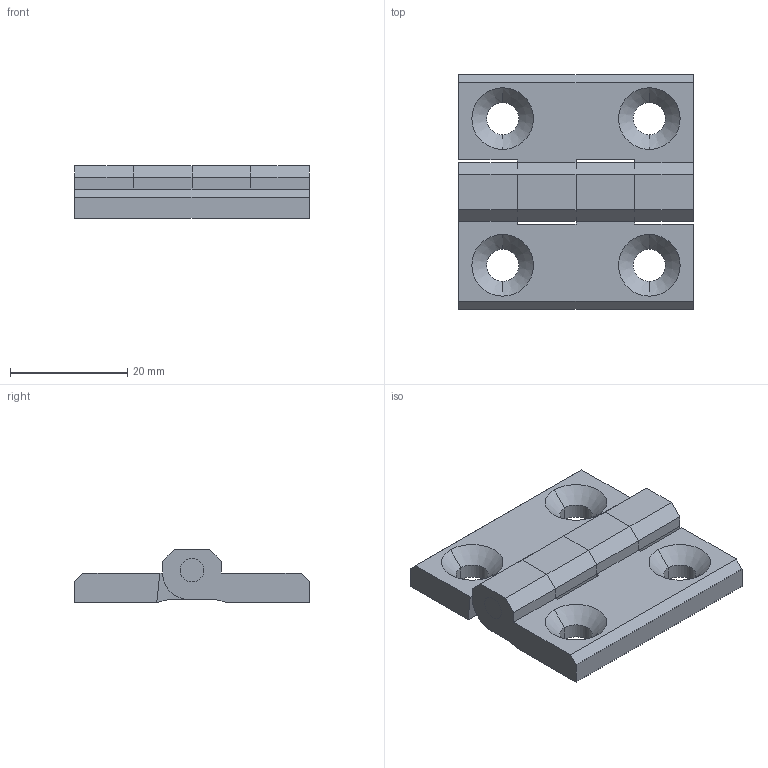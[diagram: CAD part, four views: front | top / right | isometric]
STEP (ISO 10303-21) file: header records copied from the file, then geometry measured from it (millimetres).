
FILE_DESCRIPTION (( 'STEP AP203' ), '1' );
FILE_NAME ('md-efth4040hh.STEP', '2021-10-26T02:42:58', ( '' ), ( '' ), 'SwSTEP 2.0', 'SolidWorks 2020', '' );
FILE_SCHEMA (( 'CONFIG_CONTROL_DESIGN' ));
Length unit declared in the file: millimetre
Products named in the file (4): md-efth4040hh_02; md-efth4040hh_03; md-efth4040hh_01; md-efth4040hh
Assembly tree (3 placements, depth 2):
  md-efth4040hh
    md-efth4040hh_01
    md-efth4040hh_02
    md-efth4040hh_03
Bounding box: 40 x 40 x 9 mm (x, y, z)
Volume: 8082.5 mm3; surface area: 5948.4 mm2
Topology: 3 solids, 3 shells, 82 faces, 220 edges, 144 vertices
Faces by surface type: plane 52, cylinder 22, cone 8
Entity records: 2998 total; most frequent: CARTESIAN_POINT 452, DIRECTION 448, ORIENTED_EDGE 440, EDGE_CURVE 220, VECTOR 168, LINE 168, VERTEX_POINT 144, AXIS2_PLACEMENT_3D 140
